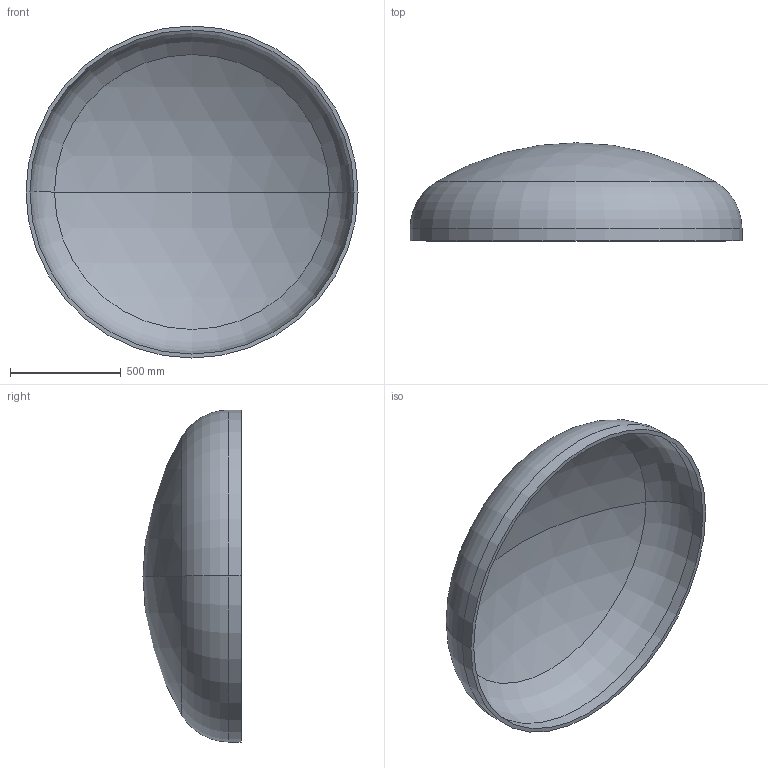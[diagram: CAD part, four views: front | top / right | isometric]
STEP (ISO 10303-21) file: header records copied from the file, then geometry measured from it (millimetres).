
FILE_DESCRIPTION (( 'STEP AP203' ), '1' );
FILE_NAME ('DIN 28013 Korbbogenform_-_Boden DIN 28013 - 1500 x 55 - I - s=18.step', '2016-07-01T10:38:01', ( '' ), ( '' ), 'SwSTEP 2.0', 'SolidWorks 2013', '' );
FILE_SCHEMA (( 'CONFIG_CONTROL_DESIGN' ));
Length unit declared in the file: millimetre
Products named in the file (1): DIN 28013 Korbbogenform_-_Boden DIN 28013 - 1500 x 55 - I - s=18
Bounding box: 1500 x 443 x 1500 mm (x, y, z)
Volume: 47933414.7 mm3; surface area: 5410416.8 mm2
Topology: 1 solids, 1 shells, 13 faces, 24 edges, 14 vertices
Faces by surface type: torus 4, cylinder 4, sphere 4, plane 1
Entity records: 407 total; most frequent: DIRECTION 72, CARTESIAN_POINT 52, ORIENTED_EDGE 48, AXIS2_PLACEMENT_3D 34, EDGE_CURVE 24, CIRCLE 20, EDGE_LOOP 14, VERTEX_POINT 14
